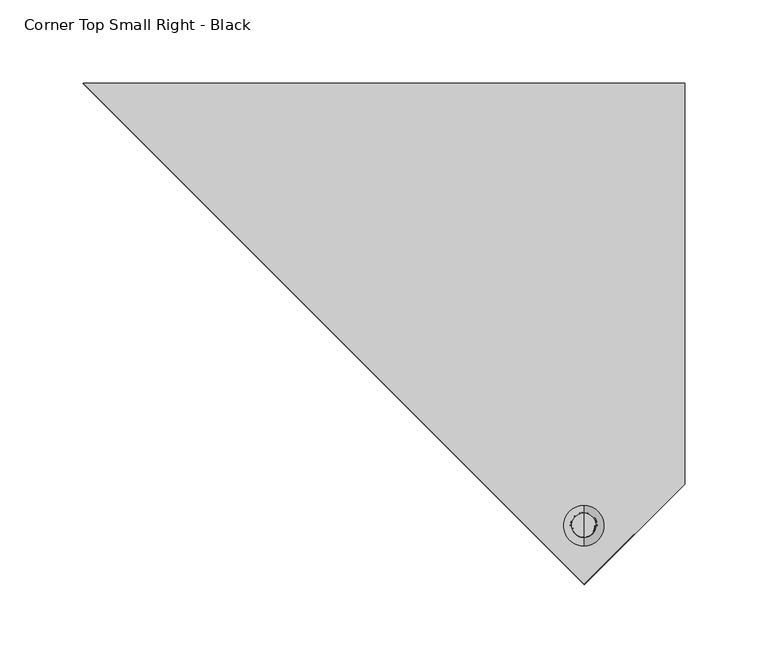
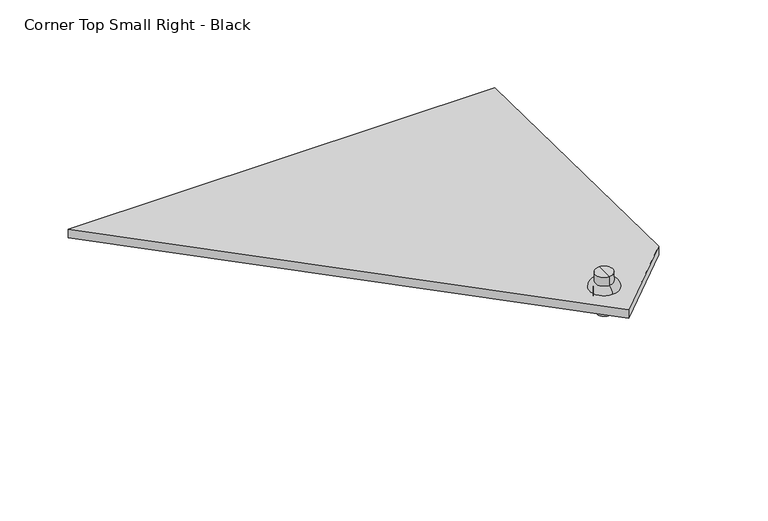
"""IFC4 building model written with IfcOpenShell, lengths in millimetres: proxy geometry, Roofing_Panels_SunStyle_Tile_Corner-Top-Small-Right : Corner Top Small Right - Black."""

from ifc_helpers import new_model, si_unit, point, frame, frame_2d, origin, place, context, project, spatial, polyline, circle_curve, ellipse_curve, trimmed, segment, composite_curve, outline, extrude, source, transform, mapped, element, save
from ifc_brep_helpers import plane_surface, cylinder_surface, revolved_surface, advanced_brep


def corner_top_small_right_black_2f2f0a71(model_context):
    return source(origin(), model_context, "Body", "SolidModel", [
        advanced_brep(
        [(-0.4947145, -586.7225689, 26.2215343), (-0.4947145, -573.3894883, 25.9982384), (-0.4947145, -573.7577974, 4.0063691), (-0.4947145, -587.090878, 4.229665), (-0.4947145, -592.2217977, 26.3136327), (-0.4947145, -567.8902595, 25.90614), (-0.4947145, -587.2728014, 31.2274395), (-0.4947145, -572.6719385, 30.9829114), (-0.4947145, -579.8383415, 39.1080636), (-0.4947145, -572.53791, 38.9857996), (-0.4947145, -587.138773, 39.2303277), (-0.4947145, -580.4243377, 4.118017)],
        [
            (0, 1, circle_curve(frame((-0.4947145, -580.0560286, 26.1098864), z_axis=(0.0, -0.016745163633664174, -0.9998597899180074), x_axis=(0.0, 0.9998597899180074, -0.016745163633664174)), 6.6674751)),
            (1, 2),
            (2, 3, circle_curve(frame((-0.4947145, -580.4243377, 4.118017), z_axis=(0.0, 0.016745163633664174, 0.9998597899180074), x_axis=(0.0, 0.9998597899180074, -0.016745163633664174)), 6.6674751)),
            (3, 0),
            (1, 0, circle_curve(frame((-0.4947145, -580.0560286, 26.1098864), z_axis=(0.0, -0.016745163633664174, -0.9998597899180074), x_axis=(0.0, 0.9998597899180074, -0.016745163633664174)), 6.6674751)),
            (3, 2, circle_curve(frame((-0.4947145, -580.4243377, 4.118017), z_axis=(0.0, 0.016745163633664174, 0.9998597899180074), x_axis=(0.0, 0.9998597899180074, -0.016745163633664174)), 6.6674751)),
            (4, 5, circle_curve(frame((-0.4947145, -580.0560286, 26.1098864), z_axis=(0.0, -0.016745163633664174, -0.9998597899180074), x_axis=(0.0, 0.9998597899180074, -0.016745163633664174)), 12.1674751)),
            (5, 1),
            (0, 4),
            (5, 4, circle_curve(frame((-0.4947145, -580.0560286, 26.1098864), z_axis=(0.0, -0.016745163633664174, -0.9998597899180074), x_axis=(0.0, 0.9998597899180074, -0.016745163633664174)), 12.1674751)),
            (6, 7, circle_curve(frame((-0.4947145, -579.97237, 31.1051755), z_axis=(0.0, -0.016745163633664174, -0.9998597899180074), x_axis=(0.0, 0.9998597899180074, -0.016745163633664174)), 7.3014552)),
            (7, 5, circle_curve(frame((-0.4947145, -572.9761364, 25.90614), z_axis=(-1.0, 0.0, 0.0), x_axis=(0.0, -1.0, 0.0)), 5.0858769)),
            (4, 6, circle_curve(frame((-0.4947145, -587.138773, 26.1433289), z_axis=(-1.0, 0.0, 0.0), x_axis=(0.0, 0.9994391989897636, -0.03348563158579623)), 5.0858769)),
            (7, 6, circle_curve(frame((-0.4947145, -579.97237, 31.1051755), z_axis=(0.0, -0.016745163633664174, -0.9998597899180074), x_axis=(0.0, 0.9998597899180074, -0.016745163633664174)), 7.3014552)),
            (8, 9),
            (9, 10, circle_curve(frame((-0.4947145, -579.8383415, 39.1080636), z_axis=(0.0, 0.016745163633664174, 0.9998597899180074), x_axis=(0.0, 0.9998597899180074, -0.016745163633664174)), 7.3014552)),
            (10, 8),
            (10, 9, circle_curve(frame((-0.4947145, -579.8383415, 39.1080636), z_axis=(0.0, 0.016745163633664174, 0.9998597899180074), x_axis=(0.0, 0.9998597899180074, -0.016745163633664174)), 7.3014552)),
            (2, 11),
            (11, 3),
            (9, 7),
            (6, 10),
        ],
        [
            cylinder_surface(frame((-0.4947145, -579.8383415, 39.1080636), z_axis=(0.0, 0.016745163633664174, 0.9998597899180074), x_axis=(0.0, 0.9998597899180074, -0.016745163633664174)), 6.6674751),
            plane_surface(frame((-0.4947145, -580.0560286, 26.1098864), z_axis=(0.0, -0.016745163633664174, -0.9998597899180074), x_axis=(0.0, 0.9998597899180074, -0.016745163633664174))),
            revolved_surface(trimmed(ellipse_curve(frame((-0.4947145, -572.9761364, 25.90614), z_axis=(1.0, 0.0, 0.0), x_axis=(0.0, -1.0, 0.0)), 5.0858769, 5.0858769), [point((-0.4947145, -567.8902595, 25.90614))], [point((-0.4947145, -572.6719385, 30.9829114))], True, "CARTESIAN"), (-0.4947145, -579.8383415, 39.1080636), (0.0, 0.016745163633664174, 0.9998597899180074)),
            plane_surface(frame((-0.4947145, -579.8383415, 39.1080636), z_axis=(0.0, 0.016745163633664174, 0.9998597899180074), x_axis=(0.0, 0.9998597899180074, -0.016745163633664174))),
            plane_surface(frame((-0.4947145, -580.4243377, 4.118017), z_axis=(0.0, -0.016745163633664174, -0.9998597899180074), x_axis=(0.0, 0.9998597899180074, -0.016745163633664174))),
            cylinder_surface(frame((-0.4947145, -579.8383415, 39.1080636), z_axis=(0.0, 0.016745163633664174, 0.9998597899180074), x_axis=(0.0, 0.9998597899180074, -0.016745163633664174)), 7.3014552),
        ],
        [
            (0, [[1, 2, 3, 4]]),
            (0, [[5, -4, 6, -2]]),
            (1, [[7, 8, -1, 9]]),
            (1, [[10, -9, -5, -8]]),
            (2, [[11, 12, -7, 13]]),
            (2, [[14, -13, -10, -12]]),
            (3, [[15, 16, 17]]),
            (3, [[-17, 18, -15]]),
            (4, [[-3, 19, 20]]),
            (4, [[-6, -20, -19]]),
            (5, [[-16, 21, -11, 22]]),
            (5, [[-18, -22, -14, -21]]),
        ],
    ),
        extrude(outline(polyline([(1110.1751095, 0.0), (1170.2701138, -60.1034314), (869.6118082, -360.8038982), (869.6118082, 0.0), (1110.1751095, 0.0)]), holes=[composite_curve([segment(trimmed(circle_curve(frame_2d((1135.0373912, -60.5012486)), 8.0), [point((1135.0373912, -68.5012486))], [point((1135.0373912, -52.5012486))], True, "CARTESIAN"), True, "CONTINUOUS"), segment(trimmed(circle_curve(frame_2d((1135.0373912, -60.5012486)), 8.0), [point((1135.0373912, -52.5012486))], [point((1135.0373912, -68.5012486))], True, "CARTESIAN"), True, "CONTINUOUS")], self_intersect=False)]), frame((60.0, 554.7431747, -0.4879953), z_axis=(0.0, 0.01674516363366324, 0.9998597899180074), x_axis=(0.0, -0.9998597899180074, 0.01674516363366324)), (0.0, 0.0, 1.0), 7.5),
    ])


if __name__ == "__main__":
    model = new_model("IFC4")
    model_context = context("Model", 3, world=origin())
    ifc_project = project(units=[si_unit("LENGTHUNIT", "METRE", prefix="MILLI")], contexts=[model_context])
    site = spatial("IfcSite", under=ifc_project)
    building = spatial("IfcBuilding", under=site)
    placement = place(None, origin())
    corner_top_small_right_black_shape = corner_top_small_right_black_2f2f0a71(model_context)
    element("IfcBuildingElementProxy", 1, Name="Roofing_Panels_SunStyle_Tile_Corner-Top-Small-Right : Corner Top Small Right - Black", ObjectType="Roofing_Panels_SunStyle_Tile_Corner-Top-Small-Right : Corner Top Small Right - Black", at=placement, inside=building, context=model_context, shape_type="MappedRepresentation", body=[
        mapped(corner_top_small_right_black_shape, transform((0.0, 0.0, 0.0), x_axis=(1.0, 0.0, 0.0), y_axis=(0.0, 1.0, 0.0), z_axis=(0.0, 0.0, 1.0))),
    ])
    save(model, "model.ifc")
